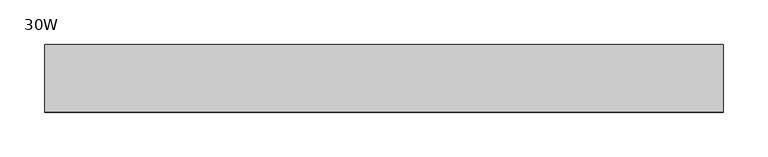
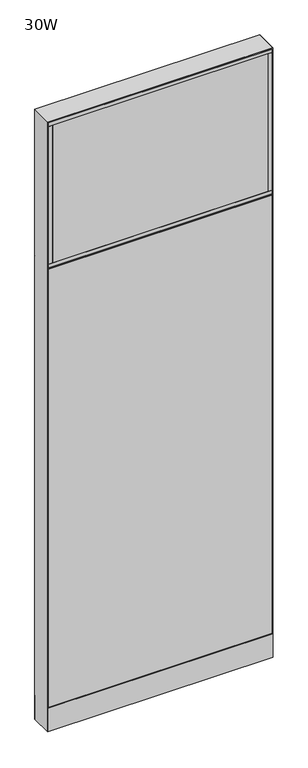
"""IFC4 building model written with IfcOpenShell, lengths in millimetres: furniture geometry, Steelcase - Montage - Frame - 86H - Enhanced Monolithic - Base Cavity : 30W."""

import ifcopenshell
import ifcopenshell.guid

model = None  # the IFC model being written
_history = None  # IfcOwnerHistory: only IFC2X3 demands one
_inside = {}  # id of a spatial element -> (the spatial element, [elements in it])
_under = {}  # id of a project, library or spatial element -> (it, [spatial elements below it])
_declared = {}  # id of a project -> (the project, [libraries it declares])
_typed = {}  # id of a type object -> (the type object, [elements of that type])
_made_of = {}  # id of a material, layer set ... -> (it, [elements and type objects made of it])


def new_model(schema):
    """Start an empty IFC model of exactly this schema.

    Asked for "IFC4X3", IfcOpenShell would pick the latest addendum, in which some entities
    have other attributes; the version numbers below select the first issue.
    IFC2X3 requires an IfcOwnerHistory on every rooted entity: one is made here for all.
    """
    global model, _history
    if schema == "IFC4X3":
        model = ifcopenshell.file(schema_version=(4, 3, 0, 0))
    else:
        model = ifcopenshell.file(schema=schema)
    _inside.clear()
    _under.clear()
    _declared.clear()
    _typed.clear()
    _made_of.clear()
    _history = None
    if model.schema == "IFC2X3":
        org = make("IfcOrganization", Name="unknown")
        user = make(
            "IfcPersonAndOrganization",
            ThePerson=make("IfcPerson", FamilyName="unknown"),
            TheOrganization=org,
        )
        app = make(
            "IfcApplication",
            ApplicationDeveloper=org,
            Version="unknown",
            ApplicationFullName="unknown",
            ApplicationIdentifier="unknown",
        )
        _history = make(
            "IfcOwnerHistory",
            OwningUser=user,
            OwningApplication=app,
            ChangeAction="ADDED",
            CreationDate=0,
        )
    return model


def make(cls, **values):
    """One entity of the class cls with the attributes given. An attribute that is None is left unset."""
    return model.create_entity(
        cls, **{name: value for name, value in values.items() if value is not None}
    )


def rooted(cls, **values):
    """An entity with a GlobalId (a new one), such as an element, a storey or a relation."""
    return make(cls, GlobalId=ifcopenshell.guid.new(), OwnerHistory=_history, **values)


def si_unit(unit_type, name, prefix=None):
    """IfcSIUnit, for example si_unit("LENGTHUNIT", "METRE", prefix="MILLI")."""
    return make("IfcSIUnit", UnitType=unit_type, Prefix=prefix, Name=name)


def assignment(units):
    """IfcUnitAssignment: the units of a project."""
    return None if units is None else make("IfcUnitAssignment", Units=units)


def point(xyz):
    """IfcCartesianPoint."""
    return None if xyz is None else make("IfcCartesianPoint", Coordinates=xyz)


def direction(xyz):
    """IfcDirection."""
    return None if xyz is None else make("IfcDirection", DirectionRatios=xyz)


def frame(location, z_axis=None, x_axis=None):
    """IfcAxis2Placement3D, a coordinate frame: its origin and axes. An axis left out is left unset."""
    return make(
        "IfcAxis2Placement3D",
        Location=point(location),
        Axis=direction(z_axis),
        RefDirection=direction(x_axis),
    )


def frame_2d(location, x_axis=None):
    """IfcAxis2Placement2D, a coordinate frame in the plane: its origin and x axis."""
    return make(
        "IfcAxis2Placement2D", Location=point(location), RefDirection=direction(x_axis)
    )


def origin():
    """The frame at (0, 0, 0) with its axes left unset."""
    return frame((0.0, 0.0, 0.0))


def origin_with_axes():
    """The frame at (0, 0, 0) with the z axis (0, 0, 1) and the x axis (1, 0, 0) written out."""
    return frame((0.0, 0.0, 0.0), z_axis=(0.0, 0.0, 1.0), x_axis=(1.0, 0.0, 0.0))


def place(relative_to, where):
    """IfcLocalPlacement: puts the frame where relative to a parent placement (None: the world)."""
    return make(
        "IfcLocalPlacement", PlacementRelTo=relative_to, RelativePlacement=where
    )


def context(
    kind, dimensions, precision=None, world=None, true_north=None, identifier=None
):
    """IfcGeometricRepresentationContext, for example the 3D "Model" context."""
    return make(
        "IfcGeometricRepresentationContext",
        ContextIdentifier=identifier,
        ContextType=kind,
        CoordinateSpaceDimension=dimensions,
        Precision=precision,
        WorldCoordinateSystem=world,
        TrueNorth=true_north,
    )


def project(units=None, contexts=None):
    """IfcProject with its units and contexts."""
    return rooted(
        "IfcProject",
        Name="project",
        RepresentationContexts=contexts,
        UnitsInContext=assignment(units),
    )


def spatial(cls, under=None, at=None, **own):
    """A site, building, storey or space (cls), placed at a placement, below another one or the project."""
    s = rooted(cls, ObjectPlacement=at, **own)
    if under is not None:
        _under.setdefault(under.id(), (under, []))[1].append(s)
    return s


def polyline(points):
    """IfcPolyline through the points."""
    return make("IfcPolyline", Points=[point(p) for p in points])


def circle_curve(where, radius):
    """IfcCircle in the frame where."""
    return make("IfcCircle", Position=where, Radius=radius)


def trimmed(basis, trim1, trim2, sense, master):
    """IfcTrimmedCurve: the piece of a basis curve between two trims."""
    return make(
        "IfcTrimmedCurve",
        BasisCurve=basis,
        Trim1=trim1,
        Trim2=trim2,
        SenseAgreement=sense,
        MasterRepresentation=master,
    )


def segment(curve, same_sense, transition):
    """IfcCompositeCurveSegment."""
    return make(
        "IfcCompositeCurveSegment",
        Transition=transition,
        SameSense=same_sense,
        ParentCurve=curve,
    )


def composite_curve(segments, self_intersect=None):
    """IfcCompositeCurve: segments joined end to end."""
    return make("IfcCompositeCurve", Segments=segments, SelfIntersect=self_intersect)


def outline(outer, holes=None, kind="AREA"):
    """IfcArbitraryClosedProfileDef: a profile drawn as a closed curve; with holes, ...WithVoids."""
    if holes is None:
        return make("IfcArbitraryClosedProfileDef", ProfileType=kind, OuterCurve=outer)
    return make(
        "IfcArbitraryProfileDefWithVoids",
        ProfileType=kind,
        OuterCurve=outer,
        InnerCurves=holes,
    )


def extrude(swept, where, along, depth):
    """IfcExtrudedAreaSolid: the profile swept, set in the frame where, extruded along a direction by depth."""
    return make(
        "IfcExtrudedAreaSolid",
        SweptArea=swept,
        Position=where,
        ExtrudedDirection=direction(along),
        Depth=depth,
    )


def faces_of(points, faces, orient=None, outer=None):
    """IfcFace entities. A face is a list of loops; a loop is a list of indices into points, from 0.

    orient and outer hold one flag for each loop. By default every Orientation is true, the
    first loop of a face is its IfcFaceOuterBound and the others are IfcFaceBound.
    """
    made = []
    for i, loops in enumerate(faces):
        bounds = []
        for j, loop in enumerate(loops):
            is_outer = j == 0 if outer is None else outer[i][j]
            bounds.append(
                make(
                    "IfcFaceOuterBound" if is_outer else "IfcFaceBound",
                    Bound=make("IfcPolyLoop", Polygon=[points[k] for k in loop]),
                    Orientation=True if orient is None else orient[i][j],
                )
            )
        made.append(make("IfcFace", Bounds=bounds))
    return made


def faceted_brep(points, faces, orient=None, outer=None, voids=None):
    """IfcFacetedBrep: a solid bounded by flat faces; with voids (closed shells), ...WithVoids."""
    shared = [point(p) for p in points]
    hull = make("IfcClosedShell", CfsFaces=faces_of(shared, faces, orient, outer))
    if voids is None:
        return make("IfcFacetedBrep", Outer=hull)
    return make(
        "IfcFacetedBrepWithVoids",
        Outer=hull,
        Voids=[
            make(cls, CfsFaces=faces_of(shared, fs, o, b)) for cls, fs, o, b in voids
        ],
    )


def shape(context_of_items, identifier, shape_type, items):
    """IfcShapeRepresentation: the items that make up one representation, for example the "Body"."""
    return make(
        "IfcShapeRepresentation",
        ContextOfItems=context_of_items,
        RepresentationIdentifier=identifier,
        RepresentationType=shape_type,
        Items=items,
    )


def source(mapping_origin, context_of_items, identifier, shape_type, items):
    """IfcRepresentationMap: a shape defined once, which mapped items show again and again."""
    return make(
        "IfcRepresentationMap",
        MappingOrigin=mapping_origin,
        MappedRepresentation=shape(context_of_items, identifier, shape_type, items),
    )


def transform(
    local_origin,
    x_axis=None,
    y_axis=None,
    z_axis=None,
    scale=None,
    scale2=None,
    scale3=None,
    uniform=True,
):
    """IfcCartesianTransformationOperator3D, or its non-uniform kind. x_axis, y_axis, z_axis: its Axis1, 2, 3."""
    if uniform:
        return make(
            "IfcCartesianTransformationOperator3D",
            Axis1=direction(x_axis),
            Axis2=direction(y_axis),
            LocalOrigin=point(local_origin),
            Scale=scale,
            Axis3=direction(z_axis),
        )
    return make(
        "IfcCartesianTransformationOperator3DnonUniform",
        Axis1=direction(x_axis),
        Axis2=direction(y_axis),
        LocalOrigin=point(local_origin),
        Scale=scale,
        Axis3=direction(z_axis),
        Scale2=scale2,
        Scale3=scale3,
    )


def mapped(mapping_source, mapping_target):
    """IfcMappedItem: shows the shape of a source again, moved by a transform."""
    return make(
        "IfcMappedItem", MappingSource=mapping_source, MappingTarget=mapping_target
    )


def made_of(thing, what):
    """Note that an element or type object is made of a material, layer set ...; save() writes the relation."""
    if what is not None:
        _made_of.setdefault(what.id(), (what, []))[1].append(thing)
    return thing


def element(
    cls,
    number,
    at=None,
    inside=None,
    cuts=None,
    type_object=None,
    material=None,
    context=None,
    identifier="Body",
    shape_type=None,
    held_by="IfcProductDefinitionShape",
    body=None,
    shapes=None,
    **own,
):
    """One element of the class cls, such as IfcWall. Its Tag is "e" and its number.

    at: its placement. inside: the storey or other place that contains it. cuts: it is an
    opening in that element (IfcRelVoidsElement). A single representation is given by context,
    identifier, shape_type and body (its items); several are given by shapes. held_by: the class
    of the entity that holds the representations. save() writes the other relations.
    """
    e = rooted(cls, Tag="e%d" % number, ObjectPlacement=at, **own)
    if body is not None:
        shapes = [shape(context, identifier, shape_type, body)]
    if shapes is not None:
        e.Representation = make(held_by, Representations=shapes)
    if inside is not None:
        _inside.setdefault(inside.id(), (inside, []))[1].append(e)
    if cuts is not None:
        rooted(
            "IfcRelVoidsElement", RelatingBuildingElement=cuts, RelatedOpeningElement=e
        )
    if type_object is not None:
        _typed.setdefault(type_object.id(), (type_object, []))[1].append(e)
    return made_of(e, material)


def aggregate(whole, parts):
    """IfcRelAggregates: a whole, such as a stair, and the parts it consists of."""
    return rooted("IfcRelAggregates", RelatingObject=whole, RelatedObjects=parts)


def save(model, path):
    """Write the relations noted so far, then the file.

    IfcRelAggregates (storeys below a building ...), IfcRelContainedInSpatialStructure (elements
    in a storey), IfcRelDefinesByType, IfcRelAssociatesMaterial and IfcRelDeclares: one each for
    every whole, place, type object, material and project.
    """
    for whole, parts in _under.values():
        aggregate(whole, parts)
    for where, things in _inside.values():
        rooted(
            "IfcRelContainedInSpatialStructure",
            RelatedElements=things,
            RelatingStructure=where,
        )
    for kind, things in _typed.values():
        rooted("IfcRelDefinesByType", RelatedObjects=things, RelatingType=kind)
    for what, things in _made_of.values():
        rooted("IfcRelAssociatesMaterial", RelatedObjects=things, RelatingMaterial=what)
    for by, libraries in _declared.values():
        rooted("IfcRelDeclares", RelatingContext=by, RelatedDefinitions=libraries)
    model.write(path)


def furniture_30w_e059d47c(model_context):
    return source(origin(), model_context, "Body", "SolidModel", [
        faceted_brep([(6.3499917, 31.7526299, 1666.8749997), (6.3499917, 31.7526299, 1654.1750003), (755.6500047, 31.7526299, 1654.1750003), (755.6500047, 31.7526299, 1666.8749997), (-5.4e-06, 38.102627, 1660.5249973), (762.0, 38.1026253, 1660.5250044)], [[[0, 1, 2, 3]], [[4, 1, 0]], [[4, 0, 3, 5]], [[5, 2, 1, 4]], [[3, 2, 5]]]),
        extrude(outline(polyline([(746.125, -31.7499985), (746.125, -38.1000015), (15.875, -38.1000015), (15.875, -31.7499985), (746.125, -31.7499985)])), frame((0.0, 0.0, 1676.4), z_axis=(0.0, 0.0, 1.0), x_axis=(1.0, 0.0, 0.0)), (0.0, 0.0, 1.0), 492.125),
        extrude(outline(polyline([(746.125, 38.1000015), (746.125, 31.7500017), (15.875, 31.7500017), (15.875, 38.1000015), (746.125, 38.1000015)])), frame((0.0, 0.0, 1676.4), z_axis=(0.0, 0.0, 1.0), x_axis=(1.0, 0.0, 0.0)), (0.0, 0.0, 1.0), 492.125),
        extrude(outline(polyline([(758.825, -38.1000015), (746.125, -38.1000015), (746.125, 38.1000015), (758.825, 38.1000015), (758.825, -38.1000015)])), frame((0.0, 0.0, 1676.4), z_axis=(0.0, 0.0, 1.0), x_axis=(1.0, 0.0, 0.0)), (0.0, 0.0, 1.0), 492.125),
        extrude(outline(polyline([(15.875, -38.1000015), (3.175, -38.1000015), (3.175, 38.1000015), (15.875, 38.1000015), (15.875, -38.1000015)])), frame((0.0, 0.0, 1676.4), z_axis=(0.0, 0.0, 1.0), x_axis=(1.0, 0.0, 0.0)), (0.0, 0.0, 1.0), 492.125),
        extrude(outline(polyline([(758.825, -38.1000015), (3.175, -38.1000015), (3.175, 38.1000015), (758.825, 38.1000015), (758.825, -38.1000015)])), frame((0.0, 0.0, 2168.525), z_axis=(0.0, 0.0, 1.0), x_axis=(1.0, 0.0, 0.0)), (0.0, 0.0, 1.0), 12.7),
        extrude(outline(polyline([(758.825, -38.1000015), (3.175, -38.1000015), (3.175, 38.1000015), (758.825, 38.1000015), (758.825, -38.1000015)])), frame((0.0, 0.0, 1663.7), z_axis=(0.0, 0.0, 1.0), x_axis=(1.0, 0.0, 0.0)), (0.0, 0.0, 1.0), 12.7),
        extrude(outline(polyline([(3.175, 31.7500194), (3.175, 38.1000194), (758.825, 38.1000194), (758.825, 31.7500194), (3.175, 31.7500194)])), frame((0.0, 0.0, 92.075), z_axis=(0.0, 0.0, 1.0), x_axis=(1.0, 0.0, 0.0)), (0.0, 0.0, 1.0), 1565.275),
        faceted_brep([(6.3499917, -31.7526299, 1666.8749997), (755.6500047, -31.7526299, 1666.8749997), (755.6500047, -31.7526299, 1654.1750003), (6.3499917, -31.7526299, 1654.1750003), (-5.4e-06, -38.102627, 1660.5250027), (762.0, -38.1026297, 1660.525)], [[[0, 1, 2, 3]], [[4, 0, 3]], [[4, 5, 1, 0]], [[5, 4, 3, 2]], [[1, 5, 2]]]),
        extrude(outline(polyline([(746.125, -38.1000015), (15.875, -38.1000015), (15.875, -31.7500017), (746.125, -31.7500017), (746.125, -38.1000015)])), frame((0.0, 0.0, 1676.4), z_axis=(0.0, 0.0, 1.0), x_axis=(1.0, 0.0, 0.0)), (0.0, 0.0, 1.0), 492.125),
        extrude(outline(polyline([(746.125, 31.7499985), (15.875, 31.7499985), (15.875, 38.1000015), (746.125, 38.1000015), (746.125, 31.7499985)])), frame((0.0, 0.0, 1676.4), z_axis=(0.0, 0.0, 1.0), x_axis=(1.0, 0.0, 0.0)), (0.0, 0.0, 1.0), 492.125),
        extrude(outline(polyline([(758.825, 38.1000015), (758.825, -38.1000015), (746.125, -38.1000015), (746.125, 38.1000015), (758.825, 38.1000015)])), frame((0.0, 0.0, 1676.4), z_axis=(0.0, 0.0, 1.0), x_axis=(1.0, 0.0, 0.0)), (0.0, 0.0, 1.0), 492.125),
        extrude(outline(polyline([(15.875, 38.1000015), (15.875, -38.1000015), (3.175, -38.1000015), (3.175, 38.1000015), (15.875, 38.1000015)])), frame((0.0, 0.0, 1676.4), z_axis=(0.0, 0.0, 1.0), x_axis=(1.0, 0.0, 0.0)), (0.0, 0.0, 1.0), 492.125),
        extrude(outline(polyline([(758.825, 38.1000015), (758.825, -38.1000015), (3.175, -38.1000015), (3.175, 38.1000015), (758.825, 38.1000015)])), frame((0.0, 0.0, 2168.525), z_axis=(0.0, 0.0, 1.0), x_axis=(1.0, 0.0, 0.0)), (0.0, 0.0, 1.0), 12.7),
        extrude(outline(polyline([(758.825, 38.1000015), (758.825, -38.1000015), (3.175, -38.1000015), (3.175, 38.1000015), (758.825, 38.1000015)])), frame((0.0, 0.0, 1663.7), z_axis=(0.0, 0.0, 1.0), x_axis=(1.0, 0.0, 0.0)), (0.0, 0.0, 1.0), 12.7),
        extrude(outline(polyline([(3.175, -31.7500194), (758.825, -31.7500194), (758.825, -38.1000194), (3.175, -38.1000194), (3.175, -31.7500194)])), frame((0.0, 0.0, 92.075), z_axis=(0.0, 0.0, 1.0), x_axis=(1.0, 0.0, 0.0)), (0.0, 0.0, 1.0), 1565.275),
        extrude(outline(polyline([(6.350003, -31.7499985), (755.649997, -31.7499985), (762.0, -38.1000015), (0.0, -38.1000015), (6.350003, -31.7499985)])), frame((0.0, 0.0, 4.064), z_axis=(0.0, 0.0, 1.0), x_axis=(1.0, 0.0, 0.0)), (0.0, 0.0, 1.0), 84.835997),
        extrude(outline(polyline([(6.3500002, 31.7500017), (0.0, 38.1000015), (762.0, 38.1000015), (755.6500002, 31.7500017), (6.3500002, 31.7500017)])), frame((0.0, 0.0, 4.064), z_axis=(0.0, 0.0, 1.0), x_axis=(1.0, 0.0, 0.0)), (0.0, 0.0, 1.0), 84.835997),
        faceted_brep([(762.0, -38.1000015, 2184.4), (0.0, -38.1000015, 2184.4), (6.3500484, -31.749953, 2178.0499516), (755.6499516, -31.749953, 2178.0499516), (6.3500484, 31.749953, 2178.0499516), (755.6499516, 31.749953, 2178.0499516), (0.0, 38.1000015, 2184.4), (762.0, 38.1000015, 2184.4)], [[[0, 1, 2, 3]], [[3, 2, 4, 5]], [[6, 7, 5, 4]], [[1, 0, 7, 6]], [[2, 1, 6, 4]], [[0, 3, 5, 7]]]),
        extrude(outline(composite_curve([segment(trimmed(circle_curve(frame_2d((44.45, 0.0)), 15.24), [point((29.21, 0.0))], [point((59.69, 0.0))], False, "CARTESIAN"), True, "CONTINUOUS"), segment(trimmed(circle_curve(frame_2d((44.45, 0.0)), 15.24), [point((59.69, 0.0))], [point((29.21, 0.0))], False, "CARTESIAN"), True, "CONTINUOUS")], self_intersect=False)), origin_with_axes(), (0.0, 0.0, 1.0), 4.064),
        extrude(outline(composite_curve([segment(trimmed(circle_curve(frame_2d((717.55, 0.0)), 15.24), [point((702.31, 0.0))], [point((732.79, 0.0))], False, "CARTESIAN"), True, "CONTINUOUS"), segment(trimmed(circle_curve(frame_2d((717.55, 0.0)), 15.24), [point((732.79, 0.0))], [point((702.31, 0.0))], False, "CARTESIAN"), True, "CONTINUOUS")], self_intersect=False)), origin_with_axes(), (0.0, 0.0, 1.0), 4.064),
        faceted_brep([(762.0, -38.1000106, 4.064), (762.0, 38.1000015, 4.064), (762.0, 38.1000015, 2184.4), (762.0, -38.1000106, 2184.3999637), (0.0, 38.1000015, 4.064), (0.0, -38.1000015, 4.064), (0.0, -38.1000015, 2184.4), (0.0, 38.1000015, 2184.4), (755.6499879, 31.7500017, 606.425), (6.35, 31.7500017, 606.425), (6.3499998, 31.7500017, 619.125), (755.6499879, 31.7500017, 619.125), (6.35, -31.7499985, 619.125), (755.6499879, -31.7499985, 619.125), (6.350003, -31.7499985, 606.425), (755.6499879, -31.7499985, 606.425), (755.6499879, 31.7500017, 1130.3), (6.35, 31.7500017, 1130.3), (6.3499998, 31.7500017, 1143.0), (755.6499879, 31.7500017, 1143.0), (6.35, -31.7499985, 1143.0), (755.6499879, -31.7499985, 1143.0), (6.350003, -31.7499985, 1130.3), (755.6499879, -31.7499985, 1130.3), (6.35, 31.7500015, 4.064), (6.35, -31.7500015, 4.064), (755.6499879, 31.7499894, 4.064), (755.6499879, -31.7499985, 4.064), (6.35, 31.7500015, 2178.05), (6.3499999, 31.7500016, 1666.875), (6.3499998, 31.7500017, 1654.175), (6.3500015, -31.75, 1654.175), (6.350003, -31.7499985, 1666.875), (6.35, -31.7500015, 2178.05), (755.6499879, 31.7500017, 1654.175), (755.6499879, -31.7499985, 1654.175), (755.6499879, 31.7500017, 1666.875), (755.6499879, -31.7499985, 1666.875), (755.6499879, -31.7499985, 2178.0499516), (755.6499879, 31.7499895, 2178.0499516)], [[[0, 1, 2, 3]], [[4, 5, 6, 7]], [[8, 9, 10, 11]], [[11, 10, 12, 13]], [[13, 12, 14, 15]], [[9, 8, 15, 14]], [[16, 17, 18, 19]], [[19, 18, 20, 21]], [[21, 20, 22, 23]], [[17, 16, 23, 22]], [[24, 25, 5, 4]], [[26, 1, 0, 27]], [[24, 4, 7, 28, 29, 30, 18, 17, 10, 9]], [[5, 25, 14, 12, 22, 20, 31, 32, 33, 6]], [[25, 24, 9, 14]], [[18, 30, 31, 20]], [[10, 17, 22, 12]], [[32, 29, 28, 33]], [[26, 27, 15, 8]], [[16, 11, 13, 23]], [[34, 19, 21, 35]], [[36, 37, 38, 39]], [[27, 0, 3, 38, 37, 35, 21, 23, 13, 15]], [[1, 26, 8, 11, 16, 19, 34, 36, 39, 2]], [[7, 6, 33, 28]], [[3, 2, 39, 38]], [[34, 30, 29, 36]], [[36, 29, 32, 37]], [[37, 32, 31, 35]], [[30, 34, 35, 31]]]),
    ])


if __name__ == "__main__":
    model = new_model("IFC4")
    model_context = context("Model", 3, world=origin())
    ifc_project = project(units=[si_unit("LENGTHUNIT", "METRE", prefix="MILLI")], contexts=[model_context])
    site = spatial("IfcSite", under=ifc_project)
    building = spatial("IfcBuilding", under=site)
    placement = place(None, origin())
    furniture_30w_shape = furniture_30w_e059d47c(model_context)
    element("IfcFurniture", 1, ObjectType="Steelcase - Montage - Frame - 86H - Enhanced Monolithic - Base Cavity : 30W", at=placement, inside=building, context=model_context, shape_type="MappedRepresentation", body=[
        mapped(furniture_30w_shape, transform((0.0, 0.0, 0.0), x_axis=(1.0, 0.0, 0.0), y_axis=(0.0, 1.0, 0.0), z_axis=(0.0, 0.0, 1.0))),
    ])
    save(model, "model.ifc")
